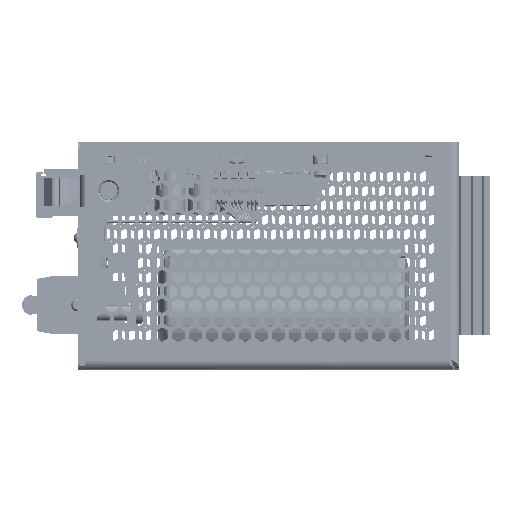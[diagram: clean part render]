
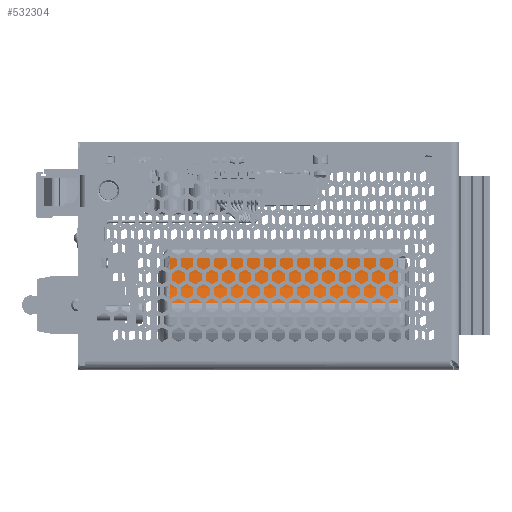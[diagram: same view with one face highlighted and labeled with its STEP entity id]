
A CAD part, front view. The second image highlights one B-rep face of the part: STEP entity #532304.
In plain terms, the highlighted cylindrical face has radius 40 mm (diameter 80 mm), a partial arc.
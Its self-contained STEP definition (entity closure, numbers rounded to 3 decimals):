
#36117 = CARTESIAN_POINT ( 'NONE',  ( 2., 16.345, -103.077 ) ) ;
#53068 = CARTESIAN_POINT ( 'NONE',  ( 2., 4.009, -65.026 ) ) ;
#104911 = DIRECTION ( 'NONE',  ( -1., 0., 0. ) ) ;
#109831 = AXIS2_PLACEMENT_3D ( 'NONE', #461332, #540474, #352296 ) ;
#116402 = EDGE_CURVE ( 'NONE', #604036, #354307, #459770, .T. ) ;
#149975 = CIRCLE ( 'NONE', #109831, 40. ) ;
#189307 = ORIENTED_EDGE ( 'NONE', *, *, #388028, .T. ) ;
#250791 = DIRECTION ( 'NONE',  ( -1., 0., 0. ) ) ;
#284148 = CARTESIAN_POINT ( 'NONE',  ( 65., 16.345, -63.077 ) ) ;
#293507 = DIRECTION ( 'NONE',  ( 0., 0., 1. ) ) ;
#341803 = DIRECTION ( 'NONE',  ( -1., 0., 0. ) ) ;
#352296 = DIRECTION ( 'NONE',  ( 0., 0., -1. ) ) ;
#354307 = VERTEX_POINT ( 'NONE', #686163 ) ;
#376457 = CARTESIAN_POINT ( 'NONE',  ( 65., 4.009, -65.026 ) ) ;
#388028 = EDGE_CURVE ( 'NONE', #461989, #708386, #149975, .T. ) ;
#426001 = AXIS2_PLACEMENT_3D ( 'NONE', #665804, #104911, #293507 ) ;
#443237 = ORIENTED_EDGE ( 'NONE', *, *, #116402, .T. ) ;
#458709 = DIRECTION ( 'NONE',  ( -1., 0., 0. ) ) ;
#459770 = CIRCLE ( 'NONE', #767177, 40. ) ;
#461332 = CARTESIAN_POINT ( 'NONE',  ( 65., 16.345, -103.077 ) ) ;
#461989 = VERTEX_POINT ( 'NONE', #284148 ) ;
#521446 = LINE ( 'NONE', #764084, #795052 ) ;
#532304 = ADVANCED_FACE ( 'NONE', ( #598986 ), #744970, .F. ) ;
#540474 = DIRECTION ( 'NONE',  ( 1., 0., 0. ) ) ;
#568660 = LINE ( 'NONE', #752748, #662927 ) ;
#592000 = EDGE_CURVE ( 'NONE', #461989, #354307, #521446, .T. ) ;
#598986 = FACE_OUTER_BOUND ( 'NONE', #794646, .T. ) ;
#604036 = VERTEX_POINT ( 'NONE', #53068 ) ;
#639756 = ORIENTED_EDGE ( 'NONE', *, *, #759235, .T. ) ;
#659677 = DIRECTION ( 'NONE',  ( 0., 0., -1. ) ) ;
#662927 = VECTOR ( 'NONE', #250791, 1000. ) ;
#665804 = CARTESIAN_POINT ( 'NONE',  ( 67., 16.345, -103.077 ) ) ;
#686163 = CARTESIAN_POINT ( 'NONE',  ( 2., 16.345, -63.077 ) ) ;
#708386 = VERTEX_POINT ( 'NONE', #376457 ) ;
#744970 = CYLINDRICAL_SURFACE ( 'NONE', #426001, 40. ) ;
#752748 = CARTESIAN_POINT ( 'NONE',  ( 67., 4.009, -65.026 ) ) ;
#759235 = EDGE_CURVE ( 'NONE', #708386, #604036, #568660, .T. ) ;
#764084 = CARTESIAN_POINT ( 'NONE',  ( 67., 16.345, -63.077 ) ) ;
#767177 = AXIS2_PLACEMENT_3D ( 'NONE', #36117, #341803, #659677 ) ;
#794646 = EDGE_LOOP ( 'NONE', ( #817386, #189307, #639756, #443237 ) ) ;
#795052 = VECTOR ( 'NONE', #458709, 1000. ) ;
#817386 = ORIENTED_EDGE ( 'NONE', *, *, #592000, .F. ) ;
